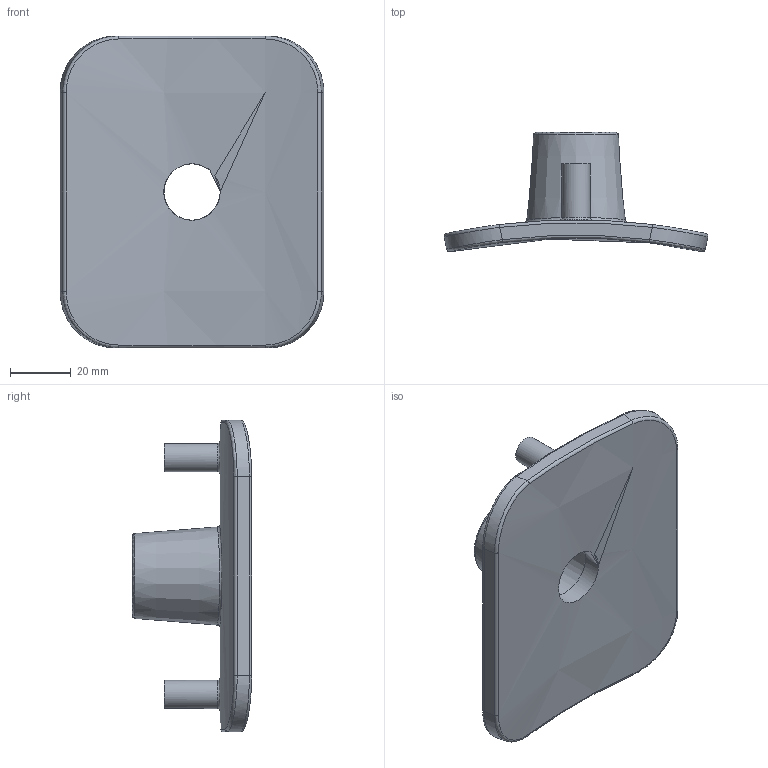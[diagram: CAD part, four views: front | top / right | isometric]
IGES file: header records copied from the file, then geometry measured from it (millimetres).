
Global section: file name: 493803400005_493803900005.ipt; native system: Autodesk Inventor 2015; preprocessor: unknown; author: KIM; date: 20190124.135357; units: millimetre
Bounding box: 87.19 x 39.39 x 103 mm (x, y, z)
Volume: 65796.3 mm3; surface area: 24191.8 mm2
Topology: 1 solids, 1 shells, 39 faces, 88 edges, 54 vertices
Faces by surface type: bspline 12, cylinder 11, revolution 8, plane 7, cone 1
Full cylindrical faces by diameter (mm): 9.316 x2
